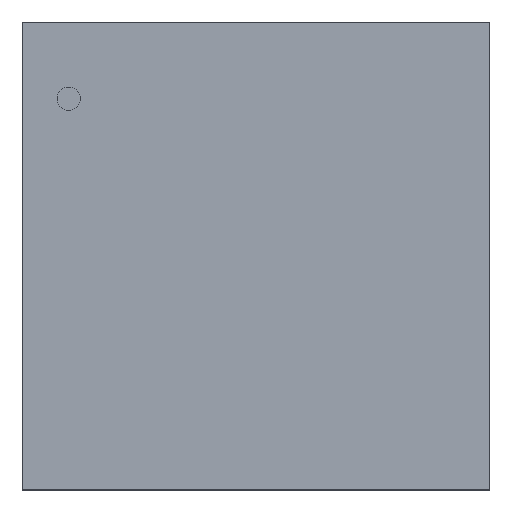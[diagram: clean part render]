
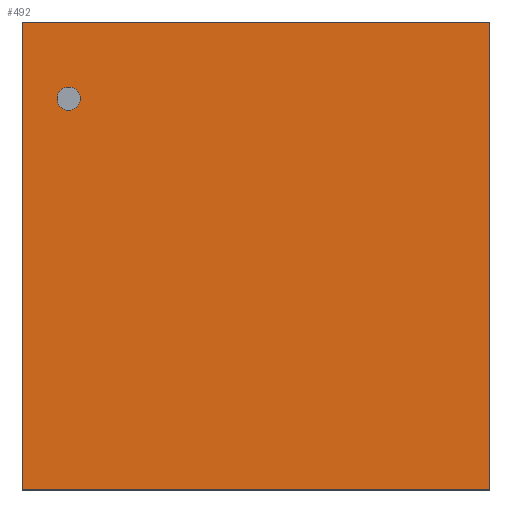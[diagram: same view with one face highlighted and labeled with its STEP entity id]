
A CAD part, top view. The second image highlights one B-rep face of the part: STEP entity #492.
In plain terms, the highlighted planar face has unit normal (0, 0, 1).
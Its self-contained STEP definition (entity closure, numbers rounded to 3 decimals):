
#268=CARTESIAN_POINT('',(0.521,-0.521,0.406));
#267=VERTEX_POINT('',#268);
#278=CARTESIAN_POINT('',(-0.521,-0.521,0.406));
#277=VERTEX_POINT('',#278);
#276=EDGE_CURVE('',#277,#267,#281,.T.);
#281=LINE('',#278,#283);
#283=VECTOR('',#284,1.041);
#284=DIRECTION('',(1.0,0.0,0.0));
#317=CARTESIAN_POINT('',(0.521,0.521,0.406));
#316=VERTEX_POINT('',#317);
#325=EDGE_CURVE('',#267,#316,#330,.T.);
#330=LINE('',#268,#332);
#332=VECTOR('',#333,1.041);
#333=DIRECTION('',(0.0,1.0,0.0));
#366=CARTESIAN_POINT('',(-0.521,0.521,0.406));
#365=VERTEX_POINT('',#366);
#374=EDGE_CURVE('',#316,#365,#379,.T.);
#379=LINE('',#317,#381);
#381=VECTOR('',#382,1.041);
#382=DIRECTION('',(-1.0,0.0,0.0));
#423=EDGE_CURVE('',#365,#277,#428,.T.);
#428=LINE('',#366,#430);
#430=VECTOR('',#431,1.041);
#431=DIRECTION('',(0.0,-1.0,0.0));
#492=ADVANCED_FACE('',(#498),#493,.T.);
#493=PLANE('',#494);
#494=AXIS2_PLACEMENT_3D('',#495,#496,#497);
#495=CARTESIAN_POINT('',(-0.521,-0.521,0.406));
#496=DIRECTION('',(0.0,0.0,1.0));
#497=DIRECTION('',(0.,1.,0.));
#498=FACE_OUTER_BOUND('',#499,.T.);
#499=EDGE_LOOP('',(#500,#510,#520,#530));
#500=ORIENTED_EDGE('',*,*,#276,.T.);
#510=ORIENTED_EDGE('',*,*,#325,.T.);
#520=ORIENTED_EDGE('',*,*,#374,.T.);
#530=ORIENTED_EDGE('',*,*,#423,.T.);
